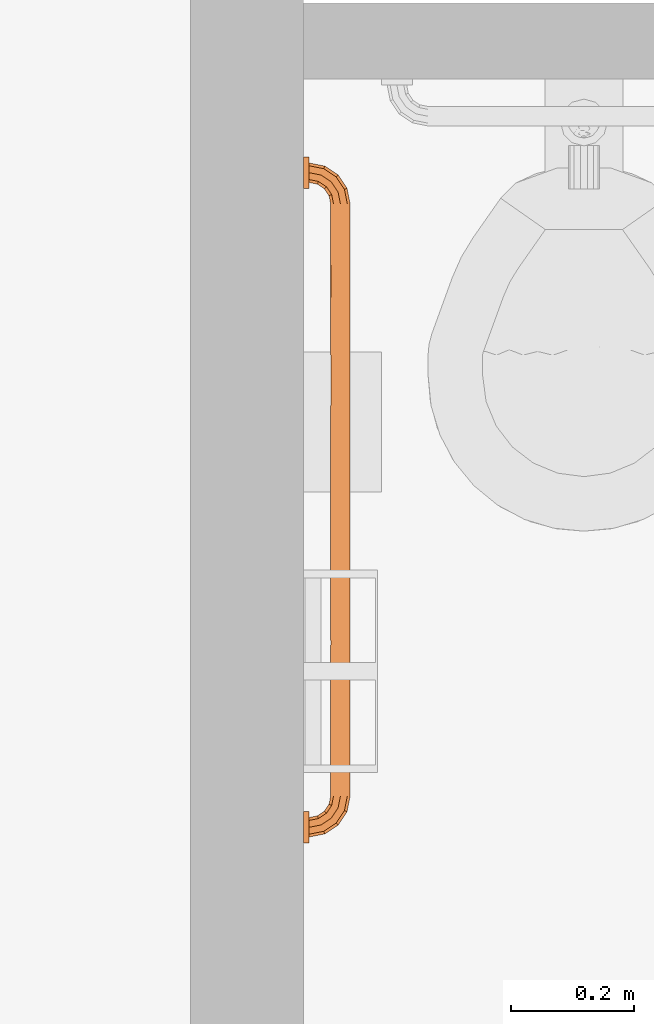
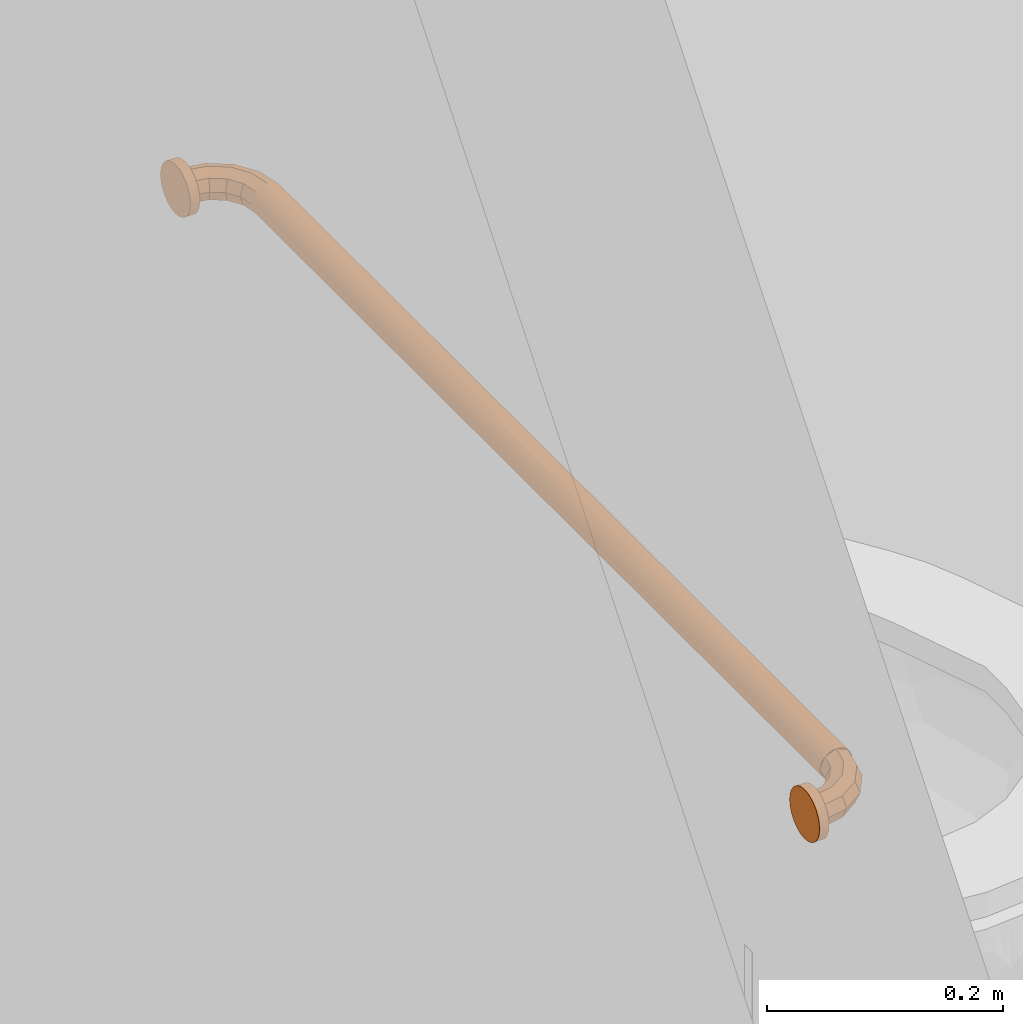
# One storey, part 21 of 142: 1 proxy.
"""IFC2X3 building model written with IfcOpenShell, lengths in feet."""

from ifc_helpers import new_model, entity, si_unit, converted_unit, derived_unit, direction, frame, origin, place, context, subcontext, project, spatial, faceted_brep, source, transform, mapped, type_object, type_shapes, element, save


model = new_model("IFC2X3")

# Units and contexts
model_context = context("Model", 3, precision=0.0001, world=origin(), true_north=direction((6.12303176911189e-17, 1.0)))
body_context = subcontext(model_context, "Body", "Model", "MODEL_VIEW")
ifc_project = project(units=[converted_unit("LENGTHUNIT", "FOOT", entity("IfcRatioMeasure", 0.3048), si_unit("LENGTHUNIT", "METRE"), dimensions=[1, 0, 0, 0, 0, 0, 0]), converted_unit("AREAUNIT", "SQUARE FOOT", entity("IfcRatioMeasure", 0.09290304), si_unit("AREAUNIT", "SQUARE_METRE"), dimensions=[2, 0, 0, 0, 0, 0, 0]), converted_unit("VOLUMEUNIT", "CUBIC FOOT", entity("IfcRatioMeasure", 0.028316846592), si_unit("VOLUMEUNIT", "CUBIC_METRE"), dimensions=[3, 0, 0, 0, 0, 0, 0]), converted_unit("PLANEANGLEUNIT", "DEGREE", entity("IfcRatioMeasure", 0.0174532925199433), si_unit("PLANEANGLEUNIT", "RADIAN"), dimensions=[0, 0, 0, 0, 0, 0, 0]), si_unit("MASSUNIT", "GRAM", prefix="KILO"), derived_unit("MASSDENSITYUNIT", [(si_unit("MASSUNIT", "GRAM", prefix="KILO"), 1), (si_unit("LENGTHUNIT", "METRE"), -3)]), si_unit("TIMEUNIT", "SECOND"), si_unit("FREQUENCYUNIT", "HERTZ"), si_unit("THERMODYNAMICTEMPERATUREUNIT", "DEGREE_CELSIUS"), derived_unit("THERMALTRANSMITTANCEUNIT", [(si_unit("MASSUNIT", "GRAM", prefix="KILO"), 1), (si_unit("THERMODYNAMICTEMPERATUREUNIT", "KELVIN"), -1), (si_unit("TIMEUNIT", "SECOND"), -3)]), derived_unit("VOLUMETRICFLOWRATEUNIT", [(si_unit("LENGTHUNIT", "METRE"), 3), (si_unit("TIMEUNIT", "SECOND"), -1)]), si_unit("ELECTRICCURRENTUNIT", "AMPERE"), si_unit("ELECTRICVOLTAGEUNIT", "VOLT"), si_unit("POWERUNIT", "WATT"), si_unit("FORCEUNIT", "NEWTON"), si_unit("ILLUMINANCEUNIT", "LUX"), si_unit("LUMINOUSFLUXUNIT", "LUMEN"), si_unit("LUMINOUSINTENSITYUNIT", "CANDELA"), derived_unit("USERDEFINED", [(si_unit("MASSUNIT", "GRAM", prefix="KILO"), -1), (si_unit("LENGTHUNIT", "METRE"), -2), (si_unit("TIMEUNIT", "SECOND"), 3), (si_unit("LUMINOUSFLUXUNIT", "LUMEN"), 1)]), derived_unit("LINEARVELOCITYUNIT", [(si_unit("LENGTHUNIT", "METRE"), 1), (si_unit("TIMEUNIT", "SECOND"), -1)]), si_unit("PRESSUREUNIT", "PASCAL"), derived_unit("USERDEFINED", [(si_unit("LENGTHUNIT", "METRE"), -2), (si_unit("MASSUNIT", "GRAM", prefix="KILO"), 1), (si_unit("TIMEUNIT", "SECOND"), -2)])], contexts=[model_context])

# Site, building, storey, space
site_placement = place(None, origin())
site = spatial("IfcSite", under=ifc_project, at=site_placement, Name="Default", CompositionType="ELEMENT")
building_placement = place(site_placement, origin())
building = spatial("IfcBuilding", under=site, at=building_placement, Name="OUTPATIENT / PACT CLINIC (Ch. 265)", CompositionType="ELEMENT")
storey_placement = place(building_placement, origin())
storey = spatial("IfcBuildingStorey", under=building, at=storey_placement, Name="LEVEL 1", CompositionType="ELEMENT", Elevation=0.0)
space_placement = place(storey_placement, origin())
space = spatial("IfcSpace", under=storey, at=space_placement, Name="TPG01", CompositionType="ELEMENT", InteriorOrExteriorSpace="INTERNAL")

# Proxy
building_element_proxy_type = type_object("IfcBuildingElementProxyType", Name="A5109 - Grab Bar, 1.25 in Dia, SS, 2 Wall, W-C Accessible_Improved", PredefinedType="NOTDEFINED")
shared_shape = source(origin(), body_context, "Body", "Brep", [
    faceted_brep([(0.897113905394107, -0.185229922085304, 0.05208333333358), (0.883020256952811, -0.151204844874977, 0.0368284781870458), (0.833333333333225, -0.161088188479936, 0.0368284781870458), (0.8333333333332, -0.197916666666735, 0.05208333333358), (0.877182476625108, -0.137111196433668, 0.0), (0.833333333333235, -0.145833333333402, 0.0), (0.883020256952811, -0.151204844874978, -0.0368284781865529), (0.833333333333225, -0.161088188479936, -0.0368284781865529), (0.897113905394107, -0.185229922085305, -0.0520833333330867), (0.8333333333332, -0.197916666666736, -0.0520833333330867), (0.911207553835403, -0.219254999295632, -0.0368284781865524), (0.833333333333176, -0.234745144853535, -0.0368284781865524), (0.917045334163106, -0.233348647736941, 0.0), (0.833333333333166, -0.250000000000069, 0.0), (0.911207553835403, -0.219254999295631, 0.0368284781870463), (0.833333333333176, -0.234745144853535, 0.0368284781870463), (0.951184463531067, -0.149101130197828, 0.05208333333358), (0.925142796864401, -0.123059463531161, 0.0368284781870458), (0.914355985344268, -0.112272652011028, 0.0), (0.925142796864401, -0.123059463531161, -0.0368284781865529), (0.951184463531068, -0.149101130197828, -0.0520833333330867), (0.977226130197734, -0.175142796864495, -0.0368284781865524), (0.988012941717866, -0.185929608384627, 0.0), (0.977226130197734, -0.175142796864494, 0.0368284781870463), (0.987313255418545, -0.0950305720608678, 0.05208333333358), (0.953288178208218, -0.0809369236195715, 0.0368284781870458), (0.939194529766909, -0.0750991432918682, 0.0), (0.953288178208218, -0.0809369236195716, -0.0368284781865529), (0.987313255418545, -0.0950305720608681, -0.0520833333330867), (1.02133833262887, -0.109124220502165, -0.0368284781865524), (1.03543198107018, -0.114962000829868, 0.0), (1.02133833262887, -0.109124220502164, 0.0368284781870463), (1.0, -0.0312499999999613, 0.05208333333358), (0.963171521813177, -0.031249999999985, 0.0368284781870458), (0.947916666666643, -0.0312499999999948, 0.0), (0.963171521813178, -0.031249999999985, -0.0368284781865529), (1.0, -0.0312499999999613, -0.0520833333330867), (1.03682847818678, -0.0312499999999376, -0.0368284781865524), (1.05208333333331, -0.0312499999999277, 0.0), (1.03682847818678, -0.0312499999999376, 0.0368284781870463)], [[[0, 1, 2, 3]], [[1, 4, 5, 2]], [[4, 6, 7, 5]], [[6, 8, 9, 7]], [[8, 10, 11, 9]], [[10, 12, 13, 11]], [[12, 14, 15, 13]], [[14, 0, 3, 15]], [[16, 17, 1, 0]], [[17, 18, 4, 1]], [[18, 19, 6, 4]], [[19, 20, 8, 6]], [[20, 21, 10, 8]], [[21, 22, 12, 10]], [[22, 23, 14, 12]], [[23, 16, 0, 14]], [[24, 25, 17, 16]], [[25, 26, 18, 17]], [[26, 27, 19, 18]], [[27, 28, 20, 19]], [[28, 29, 21, 20]], [[29, 30, 22, 21]], [[30, 31, 23, 22]], [[31, 24, 16, 23]], [[32, 33, 25, 24]], [[33, 34, 26, 25]], [[34, 35, 27, 26]], [[35, 36, 28, 27]], [[36, 37, 29, 28]], [[37, 38, 30, 29]], [[38, 39, 31, 30]], [[39, 32, 24, 31]], [[3, 2, 5, 7, 9, 11, 13, 15]], [[39, 38, 37, 36, 35, 34, 33, 32]]]),
    faceted_brep([(0.978431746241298, -0.0312499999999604, -0.0804938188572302), (1.0, -0.0312499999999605, -0.0833333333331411), (1.02156825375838, -0.0312499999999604, -0.08049381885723), (1.04166666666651, -0.0312499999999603, -0.0721687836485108), (1.05892556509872, -0.0312499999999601, -0.0589255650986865), (1.07216878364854, -0.0312499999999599, -0.0416666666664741), (1.08049381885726, -0.0312499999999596, -0.0215682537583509), (1.08333333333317, -0.0312499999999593, 0.0), (1.08049381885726, -0.031249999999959, 0.0215682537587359), (1.07216878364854, -0.0312499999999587, 0.0416666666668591), (1.05892556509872, -0.0312499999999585, 0.0589255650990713), (1.04166666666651, -0.0312499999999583, 0.0721687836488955), (1.02156825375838, -0.0312499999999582, 0.0804938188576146), (1.0, -0.0312499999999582, 0.0833333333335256), (0.978431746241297, -0.0312499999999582, 0.0804938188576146), (0.958333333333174, -0.0312499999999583, 0.0721687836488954), (0.941074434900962, -0.0312499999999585, 0.0589255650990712), (0.927831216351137, -0.0312499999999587, 0.0416666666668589), (0.919506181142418, -0.031249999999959, 0.0215682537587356), (0.916666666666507, -0.0312499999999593, 0.0), (0.919506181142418, -0.0312499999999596, -0.0215682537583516), (0.927831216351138, -0.0312499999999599, -0.0416666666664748), (0.941074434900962, -0.0312499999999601, -0.058925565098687), (0.958333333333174, -0.0312499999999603, -0.0721687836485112), (1.0, 0.0, 0.0833333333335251), (1.02156825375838, 0.0, 0.0804938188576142), (1.04166666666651, 0.0, 0.0721687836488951), (1.05892556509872, 0.0, 0.0589255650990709), (1.07216878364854, 0.0, 0.0416666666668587), (1.08049381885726, 0.0, 0.0215682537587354), (1.08333333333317, 0.0, 0.0), (1.08049381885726, 0.0, -0.0215682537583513), (1.07216878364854, 0.0, -0.0416666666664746), (1.05892556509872, 0.0, -0.0589255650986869), (1.04166666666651, 0.0, -0.0721687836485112), (1.02156825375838, 0.0, -0.0804938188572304), (1.0, 0.0, -0.0833333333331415), (0.978431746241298, 0.0, -0.0804938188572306), (0.958333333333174, 0.0, -0.0721687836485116), (0.941074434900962, 0.0, -0.0589255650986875), (0.927831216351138, 0.0, -0.0416666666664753), (0.919506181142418, 0.0, -0.0215682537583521), (0.916666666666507, 0.0, 0.0), (0.919506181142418, 0.0, 0.0215682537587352), (0.927831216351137, 0.0, 0.0416666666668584), (0.941074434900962, 0.0, 0.0589255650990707), (0.958333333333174, 0.0, 0.072168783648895), (0.978431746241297, 0.0, 0.0804938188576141)], [[[0, 1, 2, 3, 4, 5, 6, 7, 8, 9, 10, 11, 12, 13, 14, 15, 16, 17, 18, 19, 20, 21, 22, 23]], [[24, 25, 26, 27, 28, 29, 30, 31, 32, 33, 34, 35, 36, 37, 38, 39, 40, 41, 42, 43, 44, 45, 46, 47]], [[30, 7, 6, 31]], [[31, 6, 5, 32]], [[34, 33, 4, 3]], [[4, 33, 32, 5]], [[35, 34, 3, 2]], [[35, 2, 1, 36]], [[36, 1, 0, 37]], [[37, 0, 23, 38]], [[40, 39, 22, 21]], [[22, 39, 38, 23]], [[41, 40, 21, 20]], [[41, 20, 19, 42]], [[42, 19, 18, 43]], [[43, 18, 17, 44]], [[46, 45, 16, 15]], [[16, 45, 44, 17]], [[47, 46, 15, 14]], [[47, 14, 13, 24]], [[24, 13, 12, 25]], [[25, 12, 11, 26]], [[28, 27, 10, 9]], [[10, 27, 26, 11]], [[29, 28, 9, 8]], [[29, 8, 7, 30]]]),
    faceted_brep([(-2.4873132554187, -0.0950305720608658, 0.0520833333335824), (-2.45328817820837, -0.0809369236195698, 0.0368284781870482), (-2.46317152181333, -0.0312499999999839, 0.0368284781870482), (-2.50000000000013, -0.0312499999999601, 0.0520833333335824), (-2.43919452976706, -0.0750991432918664, 0.0), (-2.4479166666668, -0.0312499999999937, 0.0), (-2.45328817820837, -0.0809369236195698, -0.0368284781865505), (-2.46317152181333, -0.0312499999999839, -0.0368284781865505), (-2.4873132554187, -0.0950305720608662, -0.0520833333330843), (-2.50000000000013, -0.0312499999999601, -0.0520833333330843), (-2.52133833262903, -0.109124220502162, -0.03682847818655), (-2.53682847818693, -0.0312499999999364, -0.03682847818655), (-2.53543198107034, -0.114962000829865, 0.0), (-2.55208333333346, -0.0312499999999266, 0.0), (-2.52133833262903, -0.109124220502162, 0.0368284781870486), (-2.53682847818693, -0.0312499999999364, 0.0368284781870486), (-2.45118446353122, -0.149101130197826, 0.0520833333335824), (-2.42514279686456, -0.123059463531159, 0.0368284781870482), (-2.41435598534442, -0.112272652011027, 0.0), (-2.42514279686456, -0.123059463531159, -0.0368284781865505), (-2.45118446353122, -0.149101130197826, -0.0520833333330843), (-2.47722613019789, -0.175142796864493, -0.03682847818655), (-2.48801294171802, -0.185929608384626, 0.0), (-2.47722613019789, -0.175142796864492, 0.0368284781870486), (-2.39711390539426, -0.185229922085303, 0.0520833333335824), (-2.38302025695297, -0.151204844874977, 0.0368284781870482), (-2.37718247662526, -0.137111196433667, 0.0), (-2.38302025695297, -0.151204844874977, -0.0368284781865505), (-2.39711390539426, -0.185229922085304, -0.0520833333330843), (-2.41120755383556, -0.219254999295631, -0.03682847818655), (-2.41704533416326, -0.23334864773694, 0.0), (-2.41120755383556, -0.21925499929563, 0.0368284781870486), (-2.33333333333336, -0.197916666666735, 0.0520833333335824), (-2.33333333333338, -0.161088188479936, 0.0368284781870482), (-2.33333333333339, -0.145833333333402, 0.0), (-2.33333333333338, -0.161088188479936, -0.0368284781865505), (-2.33333333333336, -0.197916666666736, -0.0520833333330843), (-2.33333333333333, -0.234745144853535, -0.03682847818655), (-2.33333333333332, -0.250000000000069, 0.0), (-2.33333333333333, -0.234745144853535, 0.0368284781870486)], [[[0, 1, 2, 3]], [[1, 4, 5, 2]], [[4, 6, 7, 5]], [[6, 8, 9, 7]], [[8, 10, 11, 9]], [[10, 12, 13, 11]], [[12, 14, 15, 13]], [[14, 0, 3, 15]], [[16, 17, 1, 0]], [[17, 18, 4, 1]], [[18, 19, 6, 4]], [[19, 20, 8, 6]], [[20, 21, 10, 8]], [[21, 22, 12, 10]], [[22, 23, 14, 12]], [[23, 16, 0, 14]], [[24, 25, 17, 16]], [[25, 26, 18, 17]], [[26, 27, 19, 18]], [[27, 28, 20, 19]], [[28, 29, 21, 20]], [[29, 30, 22, 21]], [[30, 31, 23, 22]], [[31, 24, 16, 23]], [[32, 33, 25, 24]], [[33, 34, 26, 25]], [[34, 35, 27, 26]], [[35, 36, 28, 27]], [[36, 37, 29, 28]], [[37, 38, 30, 29]], [[38, 39, 31, 30]], [[39, 32, 24, 31]], [[3, 2, 5, 7, 9, 11, 13, 15]], [[39, 38, 37, 36, 35, 34, 33, 32]]]),
    faceted_brep([(-2.45833333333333, -0.0312499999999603, -0.0721687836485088), (-2.44107443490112, -0.0312499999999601, -0.0589255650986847), (-2.42783121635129, -0.0312499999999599, -0.0416666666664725), (-2.41950618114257, -0.0312499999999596, -0.0215682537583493), (-2.41666666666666, -0.0312499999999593, 0.0), (-2.41950618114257, -0.031249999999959, 0.021568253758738), (-2.42783121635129, -0.0312499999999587, 0.0416666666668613), (-2.44107443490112, -0.0312499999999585, 0.0589255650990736), (-2.45833333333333, -0.0312499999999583, 0.0721687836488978), (-2.47843174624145, -0.0312499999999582, 0.080493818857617), (-2.49999999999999, -0.0312499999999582, 0.083333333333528), (-2.52156825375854, -0.0312499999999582, 0.080493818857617), (-2.54166666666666, -0.0312499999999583, 0.0721687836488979), (-2.55892556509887, -0.0312499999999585, 0.0589255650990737), (-2.5721687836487, -0.0312499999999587, 0.0416666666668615), (-2.58049381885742, -0.031249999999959, 0.0215682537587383), (-2.58333333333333, -0.0312499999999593, 0.0), (-2.58049381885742, -0.0312499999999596, -0.0215682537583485), (-2.5721687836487, -0.0312499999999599, -0.0416666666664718), (-2.55892556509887, -0.0312499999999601, -0.0589255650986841), (-2.54166666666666, -0.0312499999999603, -0.0721687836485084), (-2.52156825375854, -0.0312499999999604, -0.0804938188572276), (-2.5, -0.0312499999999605, -0.0833333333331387), (-2.47843174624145, -0.0312499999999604, -0.0804938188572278), (-2.47843174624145, 0.0, 0.0804938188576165), (-2.45833333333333, 0.0, 0.0721687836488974), (-2.44107443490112, 0.0, 0.0589255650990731), (-2.42783121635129, 0.0, 0.0416666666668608), (-2.41950618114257, 0.0, 0.0215682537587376), (-2.41666666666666, 0.0, 0.0), (-2.41950618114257, 0.0, -0.0215682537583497), (-2.42783121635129, 0.0, -0.0416666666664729), (-2.44107443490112, 0.0, -0.0589255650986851), (-2.45833333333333, 0.0, -0.0721687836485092), (-2.47843174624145, 0.0, -0.0804938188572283), (-2.5, 0.0, -0.0833333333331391), (-2.52156825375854, 0.0, -0.0804938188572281), (-2.54166666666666, 0.0, -0.0721687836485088), (-2.55892556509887, 0.0, -0.0589255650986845), (-2.5721687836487, 0.0, -0.0416666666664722), (-2.58049381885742, 0.0, -0.0215682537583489), (-2.58333333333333, 0.0, 0.0), (-2.58049381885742, 0.0, 0.0215682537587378), (-2.5721687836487, 0.0, 0.0416666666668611), (-2.55892556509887, 0.0, 0.0589255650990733), (-2.54166666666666, 0.0, 0.0721687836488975), (-2.52156825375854, 0.0, 0.0804938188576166), (-2.49999999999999, 0.0, 0.0833333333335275)], [[[0, 1, 2, 3, 4, 5, 6, 7, 8, 9, 10, 11, 12, 13, 14, 15, 16, 17, 18, 19, 20, 21, 22, 23]], [[24, 25, 26, 27, 28, 29, 30, 31, 32, 33, 34, 35, 36, 37, 38, 39, 40, 41, 42, 43, 44, 45, 46, 47]], [[40, 17, 16, 41]], [[39, 18, 17, 40]], [[20, 19, 38, 37]], [[39, 38, 19, 18]], [[21, 20, 37, 36]], [[22, 21, 36, 35]], [[34, 23, 22, 35]], [[33, 0, 23, 34]], [[2, 1, 32, 31]], [[33, 32, 1, 0]], [[3, 2, 31, 30]], [[4, 3, 30, 29]], [[28, 5, 4, 29]], [[27, 6, 5, 28]], [[8, 7, 26, 25]], [[27, 26, 7, 6]], [[9, 8, 25, 24]], [[10, 9, 24, 47]], [[46, 11, 10, 47]], [[45, 12, 11, 46]], [[14, 13, 44, 43]], [[45, 44, 13, 12]], [[15, 14, 43, 42]], [[16, 15, 42, 41]]]),
    faceted_brep([(0.833333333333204, -0.171875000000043, 0.0451054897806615), (0.833333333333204, -0.18443650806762, 0.0503086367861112), (0.833333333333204, -0.19791666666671, 0.0520833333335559), (0.833333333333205, -0.211396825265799, 0.0503086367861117), (0.833333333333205, -0.223958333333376, 0.0451054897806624), (0.833333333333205, -0.234745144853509, 0.0368284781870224), (0.833333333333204, -0.24302215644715, 0.0260416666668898), (0.833333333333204, -0.248225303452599, 0.0134801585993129), (0.833333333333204, -0.250000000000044, 0.0), (0.833333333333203, -0.2482253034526, -0.0134801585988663), (0.833333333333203, -0.24302215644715, -0.0260416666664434), (0.833333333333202, -0.23474514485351, -0.0368284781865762), (0.833333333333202, -0.223958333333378, -0.0451054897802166), (0.833333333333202, -0.211396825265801, -0.0503086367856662), (0.833333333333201, -0.197916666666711, -0.0520833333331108), (0.833333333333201, -0.184436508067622, -0.0503086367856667), (0.833333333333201, -0.171875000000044, -0.0451054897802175), (0.833333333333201, -0.161088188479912, -0.0368284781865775), (0.833333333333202, -0.152811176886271, -0.026041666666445), (0.833333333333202, -0.147608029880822, -0.013480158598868), (0.833333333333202, -0.145833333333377, 0.0), (0.833333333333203, -0.147608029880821, 0.0134801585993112), (0.833333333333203, -0.15281117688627, 0.0260416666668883), (0.833333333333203, -0.16108818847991, 0.0368284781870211), (-2.33333333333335, -0.250000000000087, 0.0), (-2.33333333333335, -0.248225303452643, 0.0134801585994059), (-2.33333333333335, -0.243022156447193, 0.0260416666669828), (-2.33333333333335, -0.234745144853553, 0.0368284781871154), (-2.33333333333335, -0.22395833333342, 0.0451054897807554), (-2.33333333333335, -0.211396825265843, 0.0503086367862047), (-2.33333333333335, -0.197916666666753, 0.0520833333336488), (-2.33333333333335, -0.184436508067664, 0.0503086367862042), (-2.33333333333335, -0.171875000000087, 0.0451054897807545), (-2.33333333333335, -0.161088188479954, 0.0368284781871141), (-2.33333333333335, -0.152811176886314, 0.0260416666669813), (-2.33333333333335, -0.147608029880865, 0.0134801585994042), (-2.33333333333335, -0.145833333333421, 0.0), (-2.33333333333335, -0.147608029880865, -0.013480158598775), (-2.33333333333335, -0.152811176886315, -0.026041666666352), (-2.33333333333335, -0.161088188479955, -0.0368284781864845), (-2.33333333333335, -0.171875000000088, -0.0451054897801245), (-2.33333333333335, -0.184436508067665, -0.0503086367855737), (-2.33333333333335, -0.197916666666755, -0.0520833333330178), (-2.33333333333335, -0.211396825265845, -0.0503086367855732), (-2.33333333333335, -0.223958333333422, -0.0451054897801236), (-2.33333333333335, -0.234745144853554, -0.0368284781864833), (-2.33333333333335, -0.243022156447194, -0.0260416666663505), (-2.33333333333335, -0.248225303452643, -0.0134801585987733), (-1.67492969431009, -0.166210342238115, -0.0413204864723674), (-0.311848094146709, -0.148126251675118, -0.0152835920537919), (0.196503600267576, -0.149797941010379, -0.0199314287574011), (-0.276748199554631, -0.151866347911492, -0.0243319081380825), (0.29993908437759, -0.18649594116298, 0.0508157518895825), (0.0101222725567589, -0.177985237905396, 0.0481187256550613), (-1.67492969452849, -0.14979794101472, -0.0199314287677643), (-1.42456747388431, -0.156596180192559, -0.0317063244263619), (-0.755977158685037, -0.156060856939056, 0.0309962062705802), (-1.23645507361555, -0.151490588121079, 0.0236070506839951), (-1.42456747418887, -0.156596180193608, 0.0317063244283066), (-1.67492969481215, -0.166210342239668, 0.0413204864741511), (0.196503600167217, -0.166210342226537, -0.0413204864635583), (0.196503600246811, -0.166210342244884, 0.0413204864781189), (-1.67492969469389, -0.146278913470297, 0.00679823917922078), (-1.42456747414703, -0.146278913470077, -0.00679823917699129), (-1.42046336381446, -0.197916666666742, -0.0520833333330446), (-1.78579026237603, -0.188851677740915, -0.0512883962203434), (-1.30622143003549, -0.188929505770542, -0.0513020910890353), (0.353111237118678, -0.188470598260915, -0.0512195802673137), (0.376897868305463, -0.197916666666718, -0.0520833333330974), (0.162869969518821, -0.197916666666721, -0.0520833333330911), (-1.42044746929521, -0.19791666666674, 0.052083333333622), (-1.79525717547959, -0.189086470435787, 0.0513293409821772), (0.0101222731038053, -0.156596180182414, -0.0317063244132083), (-0.543829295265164, -0.166210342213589, -0.041320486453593), (-0.0754325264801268, -0.146278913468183, -0.00679823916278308), (-0.0333583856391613, -0.146886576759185, 0.0104213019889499), (0.0101222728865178, -0.177985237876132, -0.0481187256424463), (-0.172360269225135, -0.188469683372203, -0.0512194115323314), (-1.72253061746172, -0.149797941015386, 0.019931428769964), (-0.750000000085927, -0.149797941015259, -0.019931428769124), (-0.711016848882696, -0.156707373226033, -0.0318507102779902), (-0.863636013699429, -0.146048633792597, 0.00473083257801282), (-1.10937949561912, -0.163299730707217, 0.0389145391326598), (-0.7737053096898, -0.146416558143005, -0.00777254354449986), (0.344326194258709, -0.148857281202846, 0.0174885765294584), (-1.2362653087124, -0.147768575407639, 0.0140656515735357), (-1.89605715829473, -0.177985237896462, -0.0481187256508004), (-0.743946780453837, -0.175651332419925, -0.0470842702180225), (-0.543829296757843, -0.166210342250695, 0.0413204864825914), (-1.20643546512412, -0.188019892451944, 0.051134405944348), (-0.992408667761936, -0.197916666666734, 0.0520833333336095), (-0.53595087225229, -0.197916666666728, 0.0520833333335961), (-0.662425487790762, -0.180266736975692, 0.0490015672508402), (-1.33497324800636, -0.177985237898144, 0.0481187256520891), (-1.87503514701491, -0.179059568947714, 0.0485498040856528), (0.0101222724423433, -0.156596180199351, 0.0317063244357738), (-0.242367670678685, -0.187420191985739, 0.0510146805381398), (-1.10937949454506, -0.168131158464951, -0.0427258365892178), (-0.842730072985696, -0.186586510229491, -0.0508360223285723), (-0.136483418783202, -0.150566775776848, 0.0216947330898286), (-0.750000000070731, -0.149797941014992, 0.0199314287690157), (-1.33497324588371, -0.177985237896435, -0.0481187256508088), (-0.0795375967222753, -0.197916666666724, -0.052083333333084), (-0.50759339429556, -0.19791666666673, -0.0520833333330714), (-0.535973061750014, -0.197916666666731, -0.0520833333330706), (-0.992408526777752, -0.197916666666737, -0.0520833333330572), (-0.0795228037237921, -0.197916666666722, 0.0520833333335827), (0.162872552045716, -0.197916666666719, 0.0520833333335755), (0.376905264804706, -0.197916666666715, 0.0520833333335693), (-0.507588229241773, -0.197916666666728, 0.0520833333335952), (-1.67492969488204, -0.229622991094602, 0.0413204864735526), (-0.311848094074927, -0.247707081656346, 0.0152835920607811), (0.196503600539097, -0.246035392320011, 0.0199314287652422), (-0.27674819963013, -0.243966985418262, 0.0243319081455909), (0.299939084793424, -0.209337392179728, -0.050815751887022), (0.0101222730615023, -0.217848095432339, -0.0481187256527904), (-1.67492969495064, -0.246035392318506, 0.0199314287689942), (-1.42456747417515, -0.239237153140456, 0.0317063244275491), (-0.755977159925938, -0.239772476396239, -0.0309962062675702), (-1.23645507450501, -0.244342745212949, -0.0236070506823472), (-1.42456747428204, -0.239237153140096, -0.0317063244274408), (-1.67492969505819, -0.229622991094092, -0.0413204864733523), (0.196503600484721, -0.229622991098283, 0.0413204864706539), (0.196503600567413, -0.229622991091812, -0.0413204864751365), (-1.67492969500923, -0.249554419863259, -0.00679823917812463), (-1.42456747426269, -0.249554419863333, 0.00679823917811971), (-1.7857902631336, -0.206981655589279, 0.0512883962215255), (-1.30622143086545, -0.206903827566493, 0.0513020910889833), (0.353111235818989, -0.207362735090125, 0.05121958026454), (-1.79525717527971, -0.206746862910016, -0.0513293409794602), (0.010122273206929, -0.23923715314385, 0.0317063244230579), (-0.543829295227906, -0.229622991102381, 0.0413204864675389), (-0.0754325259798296, -0.249554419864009, 0.00679823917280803), (-0.0333583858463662, -0.248946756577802, -0.0104213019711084), (0.0101222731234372, -0.217848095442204, 0.0481187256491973), (-0.172360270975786, -0.207363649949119, 0.0512194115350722), (-1.72253061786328, -0.246035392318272, -0.0199314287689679), (-0.750000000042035, -0.246035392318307, 0.0199314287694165), (-0.711016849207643, -0.239125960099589, 0.0318507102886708), (-0.863636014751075, -0.24978469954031, -0.0047308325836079), (-1.10937949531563, -0.232533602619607, -0.0389145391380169), (-0.773705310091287, -0.249416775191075, 0.00777254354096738), (0.344326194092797, -0.246976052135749, -0.0174885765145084), (-1.23626530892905, -0.248064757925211, -0.0140656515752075), (-1.89605715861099, -0.217848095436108, 0.0481187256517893), (-0.743946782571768, -0.220182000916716, 0.0470842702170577), (-0.543829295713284, -0.229622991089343, -0.0413204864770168), (-1.20643546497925, -0.207813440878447, -0.0511344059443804), (-0.662425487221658, -0.215566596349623, -0.0490015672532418), (-1.33497324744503, -0.217848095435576, -0.0481187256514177), (-1.87503514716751, -0.216773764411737, -0.0485498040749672), (0.0101222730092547, -0.239237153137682, -0.0317063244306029), (-0.24236766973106, -0.208413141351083, -0.0510146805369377), (-1.10937949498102, -0.227702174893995, 0.0427258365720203), (-0.842730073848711, -0.209246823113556, 0.0508360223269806), (-0.136483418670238, -0.245266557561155, -0.0216947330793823), (-0.75000000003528, -0.246035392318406, -0.0199314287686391), (-1.33497324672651, -0.217848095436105, 0.0481187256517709)], [[[0, 1, 2, 3, 4, 5, 6, 7, 8, 9, 10, 11, 12, 13, 14, 15, 16, 17, 18, 19, 20, 21, 22, 23]], [[24, 25, 26, 27, 28, 29, 30, 31, 32, 33, 34, 35, 36, 37, 38, 39, 40, 41, 42, 43, 44, 45, 46, 47]], [[39, 48, 40]], [[49, 50, 51]], [[52, 1, 53]], [[54, 38, 37]], [[54, 55, 38]], [[56, 57, 58]], [[33, 32, 59]], [[16, 60, 17]], [[61, 0, 23]], [[36, 62, 63]], [[64, 65, 66]], [[37, 36, 63]], [[48, 39, 55]], [[55, 39, 38]], [[34, 33, 58]], [[67, 14, 68, 69]], [[30, 70, 71]], [[72, 60, 73]], [[72, 18, 17]], [[20, 74, 75]], [[19, 18, 50]], [[76, 60, 16]], [[50, 18, 72]], [[69, 77, 67]], [[78, 62, 35]], [[79, 80, 55]], [[81, 75, 74]], [[59, 58, 33]], [[82, 58, 59]], [[63, 62, 81]], [[62, 36, 35]], [[76, 16, 15]], [[83, 63, 81]], [[53, 1, 0]], [[19, 74, 20]], [[84, 22, 21]], [[85, 62, 78]], [[86, 41, 40]], [[76, 77, 87]], [[61, 88, 53]], [[89, 70, 90, 91]], [[92, 93, 89]], [[94, 31, 71]], [[41, 86, 65]], [[23, 95, 61]], [[96, 53, 92]], [[80, 72, 73]], [[79, 55, 54]], [[73, 87, 97]], [[95, 23, 22]], [[98, 87, 77]], [[99, 84, 75]], [[56, 100, 57]], [[92, 88, 93]], [[96, 52, 53]], [[91, 96, 92]], [[41, 65, 42]], [[70, 89, 71]], [[93, 94, 71]], [[88, 92, 53]], [[35, 34, 78]], [[62, 85, 81]], [[75, 81, 100]], [[63, 83, 79]], [[99, 75, 100]], [[75, 21, 20]], [[37, 63, 54]], [[79, 54, 63]], [[55, 80, 97]], [[86, 48, 101]], [[94, 59, 32]], [[82, 93, 88]], [[93, 71, 89]], [[30, 71, 31]], [[51, 50, 72]], [[74, 19, 50]], [[73, 60, 76]], [[72, 17, 60]], [[88, 61, 95]], [[77, 69, 102, 103]], [[53, 0, 61]], [[34, 58, 78]], [[78, 57, 85]], [[59, 94, 93]], [[32, 31, 94]], [[98, 77, 103]], [[67, 76, 15]], [[98, 103, 104, 105, 64]], [[98, 101, 87]], [[97, 101, 48]], [[76, 87, 73]], [[101, 97, 87]], [[55, 97, 48]], [[76, 67, 77]], [[14, 67, 15]], [[89, 91, 92]], [[52, 106, 107, 108, 2]], [[52, 2, 1]], [[106, 52, 96]], [[96, 91, 109, 106]], [[57, 78, 58]], [[81, 85, 100]], [[56, 58, 82]], [[100, 85, 57]], [[48, 86, 40]], [[98, 66, 101]], [[101, 65, 86]], [[42, 65, 64]], [[101, 66, 65]], [[98, 64, 66]], [[81, 74, 83]], [[49, 83, 74]], [[93, 82, 59]], [[88, 95, 56]], [[88, 56, 82]], [[99, 56, 95]], [[80, 79, 51]], [[97, 80, 73]], [[56, 99, 100]], [[84, 95, 22]], [[84, 99, 95]], [[21, 75, 84]], [[80, 51, 72]], [[49, 51, 79]], [[83, 49, 79]], [[50, 49, 74]], [[27, 110, 28]], [[111, 112, 113]], [[114, 13, 115]], [[116, 26, 25]], [[116, 117, 26]], [[118, 119, 120]], [[45, 44, 121]], [[4, 122, 5]], [[123, 12, 11]], [[24, 124, 125]], [[70, 126, 127]], [[25, 24, 125]], [[110, 27, 117]], [[117, 27, 26]], [[46, 45, 120]], [[128, 2, 108, 107]], [[42, 64, 129]], [[130, 122, 131]], [[130, 6, 5]], [[8, 132, 133]], [[7, 6, 112]], [[134, 122, 4]], [[112, 6, 130]], [[107, 135, 128]], [[136, 124, 47]], [[137, 138, 117]], [[139, 133, 132]], [[121, 120, 45]], [[140, 120, 121]], [[125, 124, 139]], [[124, 24, 47]], [[134, 4, 3]], [[141, 125, 139]], [[115, 13, 12]], [[7, 132, 8]], [[142, 10, 9]], [[143, 124, 136]], [[144, 29, 28]], [[134, 135, 145]], [[123, 146, 115]], [[147, 64, 105, 104]], [[148, 149, 147]], [[150, 43, 129]], [[29, 144, 126]], [[11, 151, 123]], [[152, 115, 148]], [[138, 130, 131]], [[137, 117, 116]], [[131, 145, 153]], [[151, 11, 10]], [[154, 145, 135]], [[155, 142, 133]], [[118, 156, 119]], [[148, 146, 149]], [[152, 114, 115]], [[104, 152, 148]], [[29, 126, 30]], [[64, 147, 129]], [[149, 150, 129]], [[146, 148, 115]], [[47, 46, 136]], [[124, 143, 139]], [[133, 139, 156]], [[125, 141, 137]], [[155, 133, 156]], [[133, 9, 8]], [[25, 125, 116]], [[137, 116, 125]], [[117, 138, 153]], [[144, 110, 157]], [[131, 122, 134]], [[150, 121, 44]], [[140, 149, 146]], [[149, 129, 147]], [[42, 129, 43]], [[113, 112, 130]], [[132, 7, 112]], [[130, 5, 122]], [[146, 123, 151]], [[135, 107, 106, 109]], [[115, 12, 123]], [[46, 120, 136]], [[136, 119, 143]], [[121, 150, 149]], [[44, 43, 150]], [[154, 135, 109]], [[128, 134, 3]], [[154, 109, 91, 90, 70]], [[154, 157, 145]], [[153, 157, 110]], [[134, 145, 131]], [[157, 153, 145]], [[117, 153, 110]], [[134, 128, 135]], [[2, 128, 3]], [[147, 104, 148]], [[114, 102, 69, 68, 14]], [[114, 14, 13]], [[102, 114, 152]], [[152, 104, 103, 102]], [[119, 136, 120]], [[139, 143, 156]], [[118, 120, 140]], [[156, 143, 119]], [[110, 144, 28]], [[154, 127, 157]], [[157, 126, 144]], [[30, 126, 70]], [[157, 127, 126]], [[154, 70, 127]], [[139, 132, 141]], [[111, 141, 132]], [[149, 140, 121]], [[146, 151, 118]], [[146, 118, 140]], [[155, 118, 151]], [[138, 137, 113]], [[153, 138, 131]], [[118, 155, 156]], [[142, 151, 10]], [[142, 155, 151]], [[9, 133, 142]], [[138, 113, 130]], [[111, 113, 137]], [[141, 111, 137]], [[112, 111, 132]]]),
])
type_shapes(building_element_proxy_type, [shared_shape])
proxy_placement = place(space_placement, frame((435.255034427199, -934.451758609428, 3.0), z_axis=(0.0, 0.0, 1.0), x_axis=(0.0, 1.0, 0.0)))
element("IfcBuildingElementProxy", 1, at=proxy_placement, inside=space, type_object=building_element_proxy_type, Name="A5109 - Grab Bar, 1.25 in Dia, SS, 2 Wall, W-C Accessible_Improved1:A5109 - Grab Bar, 1.25 in Dia, SS, 2 Wall, W-C Accessible_Improved", ObjectType="A5109 - Grab Bar, 1.25 in Dia, SS, 2 Wall, W-C Accessible_Improved", context=body_context, shape_type="MappedRepresentation", body=[
    mapped(shared_shape, transform((0.0, 0.0, 0.0), scale=1.0)),
])

save(model, "model.ifc")
